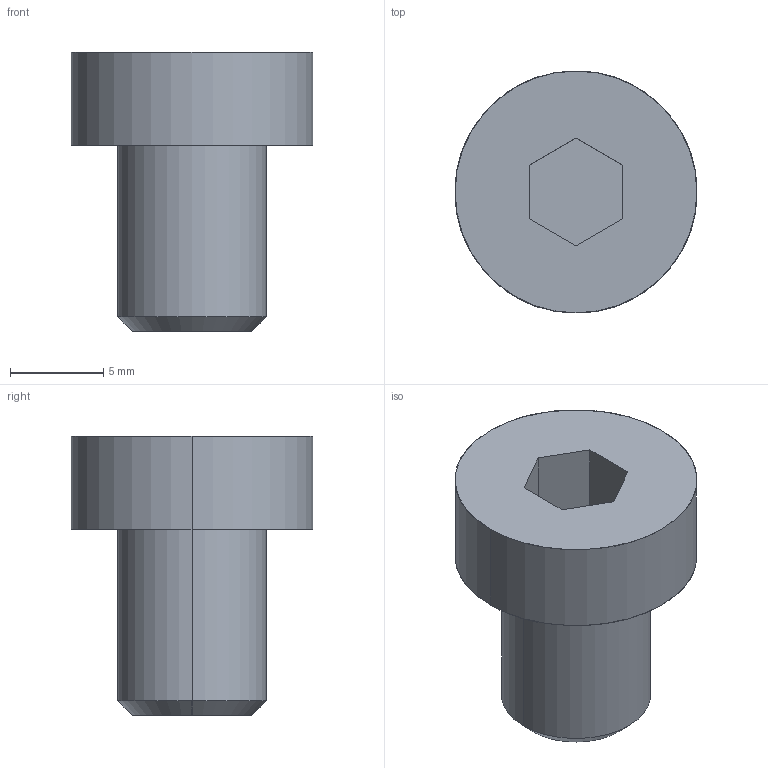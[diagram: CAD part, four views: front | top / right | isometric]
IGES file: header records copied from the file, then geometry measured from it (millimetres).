
Global section: file name: E:\UnigraphicsGraphicData\MISUMI_PRESS-PARTS\IGES\3d_cbs8-10_00454_r00.igs; native system: NX V5.0; preprocessor: UGS NX IGES V5.0; author: MISUMI; date: 20110105.160200; units: millimetre
Bounding box: 13 x 13 x 15 mm (x, y, z)
Surface area: 775 mm2 (no closed solid volume)
Topology: 0 solids, 0 shells, 16 faces, 92 edges, 92 vertices
Faces by surface type: bspline 16
